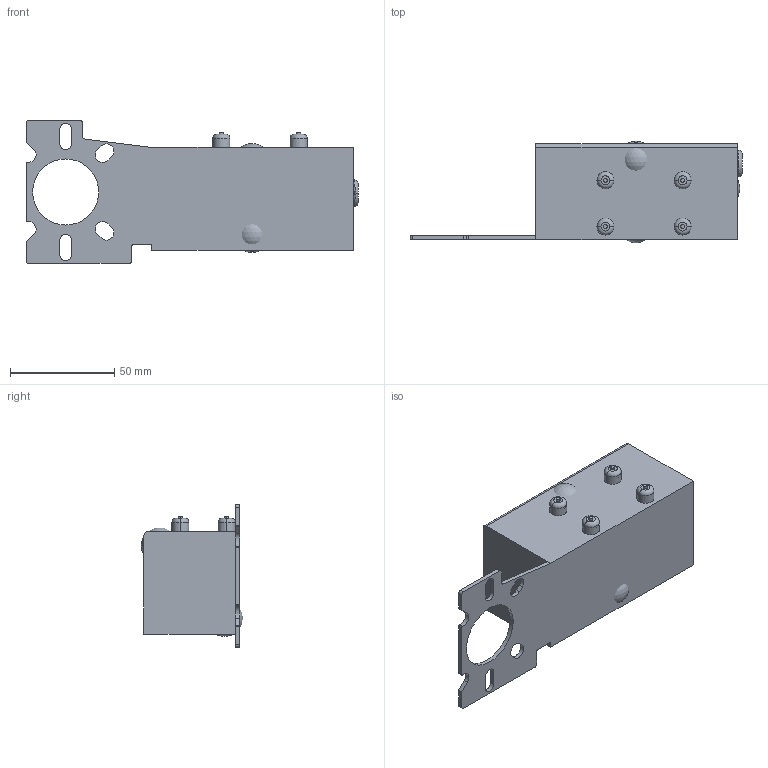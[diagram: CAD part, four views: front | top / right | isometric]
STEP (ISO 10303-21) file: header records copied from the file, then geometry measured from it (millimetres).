
FILE_DESCRIPTION((''),'1');
FILE_NAME('3','2001-04-18T',('jlue'),(''),'PRO/ENGINEER BY PARAMETRIC TECHNOLOGY CORPORATION, 9846','PRO/ENGINEER BY PARAMETRIC TECHNOLOGY CORPORATION, 9846','');
FILE_SCHEMA(('CONFIG_CONTROL_DESIGN'));
Length unit declared in the file: inch
Products named in the file (1): 3
Bounding box: 159.44 x 48.63 x 68.58 mm (x, y, z)
Surface area: 36199.7 mm2 (no closed solid volume)
Topology: 0 solids, 0 shells, 101 faces, 559 edges, 556 vertices
Faces by surface type: plane 44, cylinder 41, torus 10, sphere 6
Entity records: 2860 total; most frequent: DIRECTION 601, COMPOSITE_CURVE_SEGMENT 508, CARTESIAN_POINT 474, TRIMMED_CURVE 265, AXIS2_PLACEMENT_3D 235, CIRCLE 134, VECTOR 131, LINE 131
